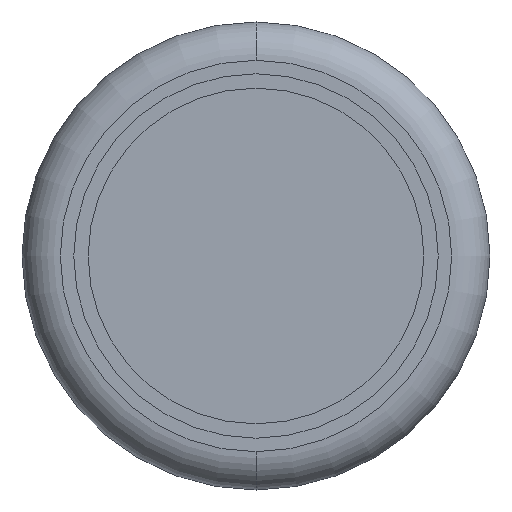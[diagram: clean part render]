
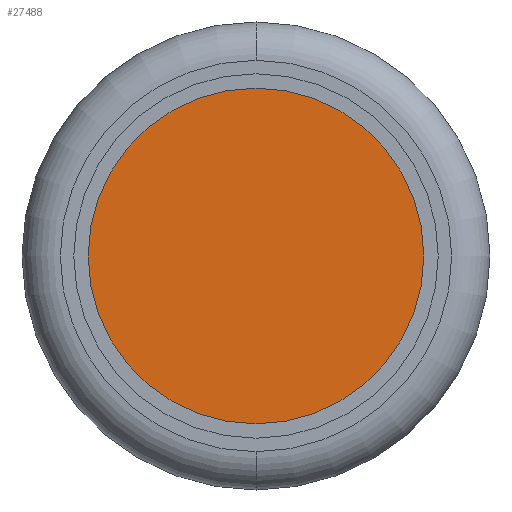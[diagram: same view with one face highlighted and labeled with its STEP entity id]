
A CAD part, front view. The second image highlights one B-rep face of the part: STEP entity #27488.
In plain terms, the highlighted planar face has unit normal (0, -1, 0).
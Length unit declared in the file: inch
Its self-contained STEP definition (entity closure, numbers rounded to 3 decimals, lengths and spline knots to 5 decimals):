
#119 = DIRECTION ( 'NONE',  ( 0., 0., -1. ) ) ;
#3343 = AXIS2_PLACEMENT_3D ( 'NONE', #71667, #55567, #26673 ) ;
#3950 = FACE_OUTER_BOUND ( 'NONE', #48568, .T. ) ;
#9435 = PLANE ( 'NONE',  #3343 ) ;
#17996 = ORIENTED_EDGE ( 'NONE', *, *, #57336, .T. ) ;
#26673 = DIRECTION ( 'NONE',  ( 0., 0., -1. ) ) ;
#27488 = ADVANCED_FACE ( 'NONE', ( #3950 ), #9435, .T. ) ;
#31088 = CIRCLE ( 'NONE', #71970, 4.375 ) ;
#32432 = DIRECTION ( 'NONE',  ( 0., 0., -1. ) ) ;
#32819 = VERTEX_POINT ( 'NONE', #46333 ) ;
#37906 = CARTESIAN_POINT ( 'NONE',  ( 0., -12.65, 0. ) ) ;
#39859 = CIRCLE ( 'NONE', #65540, 4.375 ) ;
#40294 = CARTESIAN_POINT ( 'NONE',  ( 0., -12.65, -4.375 ) ) ;
#44908 = EDGE_CURVE ( 'NONE', #57663, #32819, #31088, .T. ) ;
#46333 = CARTESIAN_POINT ( 'NONE',  ( 0., -12.65, 4.375 ) ) ;
#48568 = EDGE_LOOP ( 'NONE', ( #49085, #17996 ) ) ;
#49085 = ORIENTED_EDGE ( 'NONE', *, *, #44908, .T. ) ;
#55567 = DIRECTION ( 'NONE',  ( 0., -1., 0. ) ) ;
#57336 = EDGE_CURVE ( 'NONE', #32819, #57663, #39859, .T. ) ;
#57663 = VERTEX_POINT ( 'NONE', #40294 ) ;
#60206 = DIRECTION ( 'NONE',  ( 0., -1., 0. ) ) ;
#62342 = DIRECTION ( 'NONE',  ( 0., -1., 0. ) ) ;
#65540 = AXIS2_PLACEMENT_3D ( 'NONE', #67824, #62342, #119 ) ;
#67824 = CARTESIAN_POINT ( 'NONE',  ( 0., -12.65, 0. ) ) ;
#71667 = CARTESIAN_POINT ( 'NONE',  ( 0., -12.65, 0. ) ) ;
#71970 = AXIS2_PLACEMENT_3D ( 'NONE', #37906, #60206, #32432 ) ;
